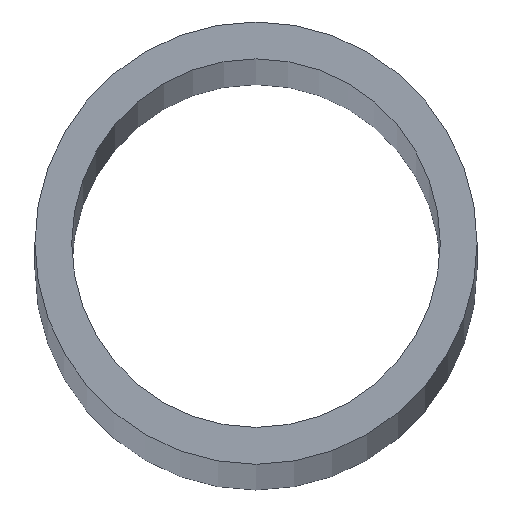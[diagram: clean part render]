
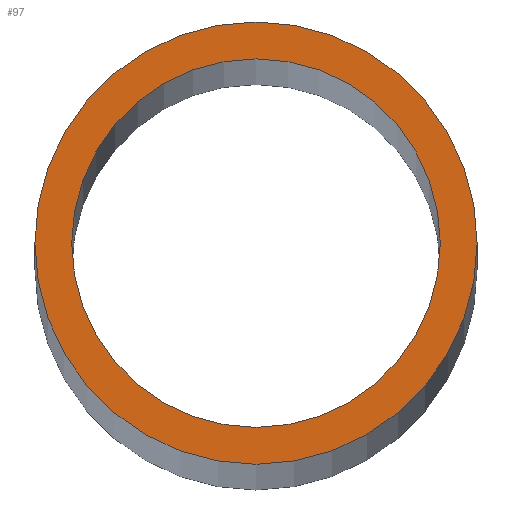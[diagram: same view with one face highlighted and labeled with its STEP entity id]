
A CAD part, top view. The second image highlights one B-rep face of the part: STEP entity #97.
In plain terms, the highlighted planar face has unit normal (0, 0, 1).
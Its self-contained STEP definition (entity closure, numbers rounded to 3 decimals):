
#2 = FACE_OUTER_BOUND ( 'NONE', #53, .T. ) ;
#19 = EDGE_CURVE ( 'NONE', #182, #88, #200, .T. ) ;
#27 = CARTESIAN_POINT ( 'NONE',  ( 0., 0., 1000. ) ) ;
#34 = AXIS2_PLACEMENT_3D ( 'NONE', #92, #98, #111 ) ;
#38 = EDGE_LOOP ( 'NONE', ( #143, #117 ) ) ;
#46 = AXIS2_PLACEMENT_3D ( 'NONE', #27, #193, #75 ) ;
#47 = DIRECTION ( 'NONE',  ( 1., 0., 0. ) ) ;
#53 = EDGE_LOOP ( 'NONE', ( #134, #89 ) ) ;
#57 = VERTEX_POINT ( 'NONE', #126 ) ;
#62 = DIRECTION ( 'NONE',  ( 1., 0., 0. ) ) ;
#65 = CARTESIAN_POINT ( 'NONE',  ( 0., 0., 1000. ) ) ;
#68 = CARTESIAN_POINT ( 'NONE',  ( 0., 0., 1000. ) ) ;
#71 = FACE_BOUND ( 'NONE', #38, .T. ) ;
#75 = DIRECTION ( 'NONE',  ( 1., 0., 0. ) ) ;
#76 = EDGE_CURVE ( 'NONE', #57, #96, #183, .T. ) ;
#77 = CARTESIAN_POINT ( 'NONE',  ( -15., 0., 1000. ) ) ;
#82 = EDGE_CURVE ( 'NONE', #88, #182, #214, .T. ) ;
#88 = VERTEX_POINT ( 'NONE', #148 ) ;
#89 = ORIENTED_EDGE ( 'NONE', *, *, #82, .T. ) ;
#92 = CARTESIAN_POINT ( 'NONE',  ( 0., 0., 1000. ) ) ;
#96 = VERTEX_POINT ( 'NONE', #211 ) ;
#97 = ADVANCED_FACE ( 'NONE', ( #2, #71 ), #166, .T. ) ;
#98 = DIRECTION ( 'NONE',  ( 0., 0., 1. ) ) ;
#110 = CIRCLE ( 'NONE', #171, 12.5 ) ;
#111 = DIRECTION ( 'NONE',  ( 1., 0., 0. ) ) ;
#117 = ORIENTED_EDGE ( 'NONE', *, *, #76, .F. ) ;
#126 = CARTESIAN_POINT ( 'NONE',  ( 12.5, 0., 1000. ) ) ;
#127 = DIRECTION ( 'NONE',  ( 0., 0., 1. ) ) ;
#134 = ORIENTED_EDGE ( 'NONE', *, *, #19, .T. ) ;
#136 = DIRECTION ( 'NONE',  ( 0., 0., 1. ) ) ;
#143 = ORIENTED_EDGE ( 'NONE', *, *, #167, .F. ) ;
#148 = CARTESIAN_POINT ( 'NONE',  ( 15., 0., 1000. ) ) ;
#152 = AXIS2_PLACEMENT_3D ( 'NONE', #68, #136, #153 ) ;
#153 = DIRECTION ( 'NONE',  ( 1., 0., 0. ) ) ;
#159 = AXIS2_PLACEMENT_3D ( 'NONE', #192, #127, #62 ) ;
#166 = PLANE ( 'NONE',  #152 ) ;
#167 = EDGE_CURVE ( 'NONE', #96, #57, #110, .T. ) ;
#171 = AXIS2_PLACEMENT_3D ( 'NONE', #65, #206, #47 ) ;
#182 = VERTEX_POINT ( 'NONE', #77 ) ;
#183 = CIRCLE ( 'NONE', #34, 12.5 ) ;
#192 = CARTESIAN_POINT ( 'NONE',  ( 0., 0., 1000. ) ) ;
#193 = DIRECTION ( 'NONE',  ( 0., 0., 1. ) ) ;
#200 = CIRCLE ( 'NONE', #159, 15. ) ;
#206 = DIRECTION ( 'NONE',  ( 0., 0., 1. ) ) ;
#211 = CARTESIAN_POINT ( 'NONE',  ( -12.5, 0., 1000. ) ) ;
#214 = CIRCLE ( 'NONE', #46, 15. ) ;
